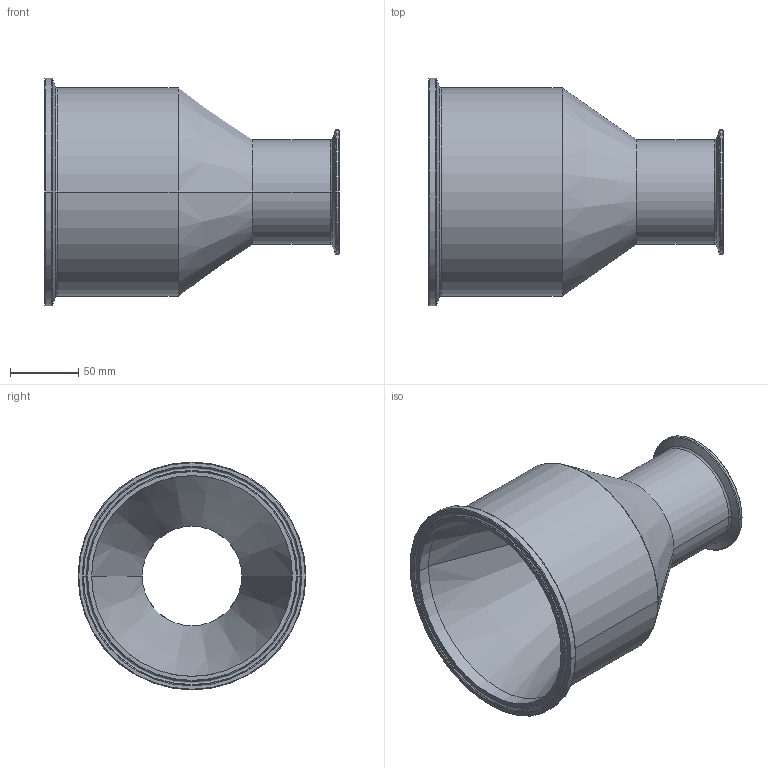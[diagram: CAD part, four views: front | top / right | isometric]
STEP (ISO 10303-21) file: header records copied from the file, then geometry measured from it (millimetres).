
FILE_DESCRIPTION (( 'STEP AP214' ), '1' );
FILE_NAME ('TEG31SCC6I6.0x3.0.STEP', '2016-05-29T14:48:21', ( 'eran' ), ( '' ), 'SwSTEP 2.0', 'SolidWorks 2016', '' );
FILE_SCHEMA (( 'AUTOMOTIVE_DESIGN' ));
Length unit declared in the file: millimetre
Products named in the file (1): TEG31SCC6I6.0x3.0
Bounding box: 215.9 x 166.9 x 166.9 mm (x, y, z)
Volume: 1087194.6 mm3; surface area: 163898 mm2
Topology: 1 solids, 1 shells, 64 faces, 128 edges, 68 vertices
Faces by surface type: cone 24, torus 24, cylinder 12, plane 4
Entity records: 1686 total; most frequent: DIRECTION 350, CARTESIAN_POINT 261, ORIENTED_EDGE 256, AXIS2_PLACEMENT_3D 157, EDGE_CURVE 128, CIRCLE 92, EDGE_LOOP 68, VERTEX_POINT 68
